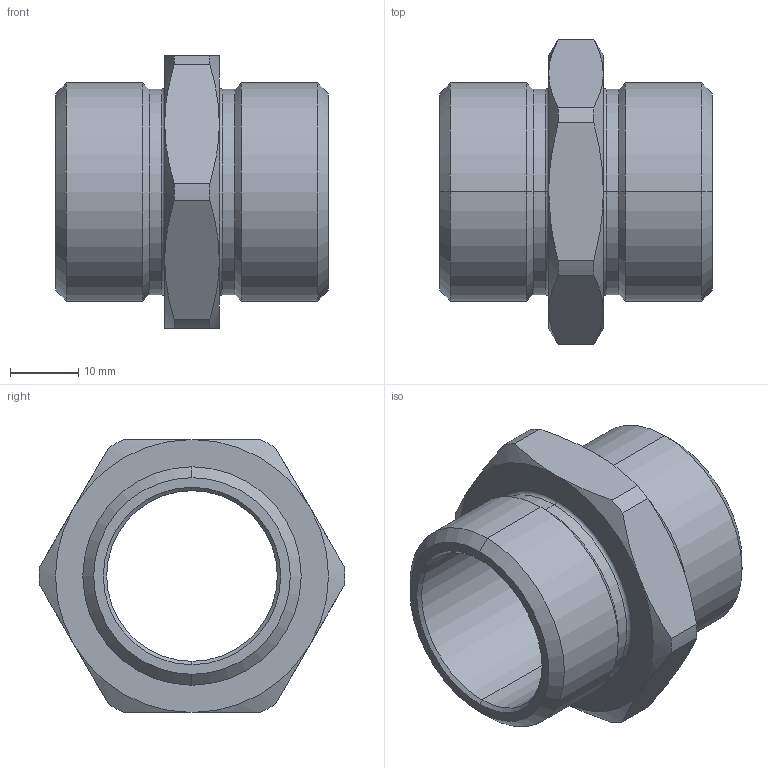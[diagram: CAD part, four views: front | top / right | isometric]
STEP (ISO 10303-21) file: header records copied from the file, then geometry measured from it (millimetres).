
FILE_DESCRIPTION (( 'STEP AP203' ), '1' );
FILE_NAME ('ﾍﾂﾍ3Mﾍ.STEP', '2019-06-05T11:18:44', ( '' ), ( '' ), 'SwSTEP 2.0', 'SolidWorks 2012', '' );
FILE_SCHEMA (( 'CONFIG_CONTROL_DESIGN' ));
Length unit declared in the file: millimetre
Products named in the file (1): ﾍﾂﾍ3Mﾍ
Bounding box: 40 x 44.79 x 40 mm (x, y, z)
Volume: 15748.2 mm3; surface area: 9345.1 mm2
Topology: 1 solids, 1 shells, 60 faces, 130 edges, 76 vertices
Faces by surface type: cone 24, cylinder 20, plane 12, torus 4
Entity records: 1811 total; most frequent: CARTESIAN_POINT 419, DIRECTION 296, ORIENTED_EDGE 260, EDGE_CURVE 130, AXIS2_PLACEMENT_3D 129, VERTEX_POINT 76, CIRCLE 68, EDGE_LOOP 66
